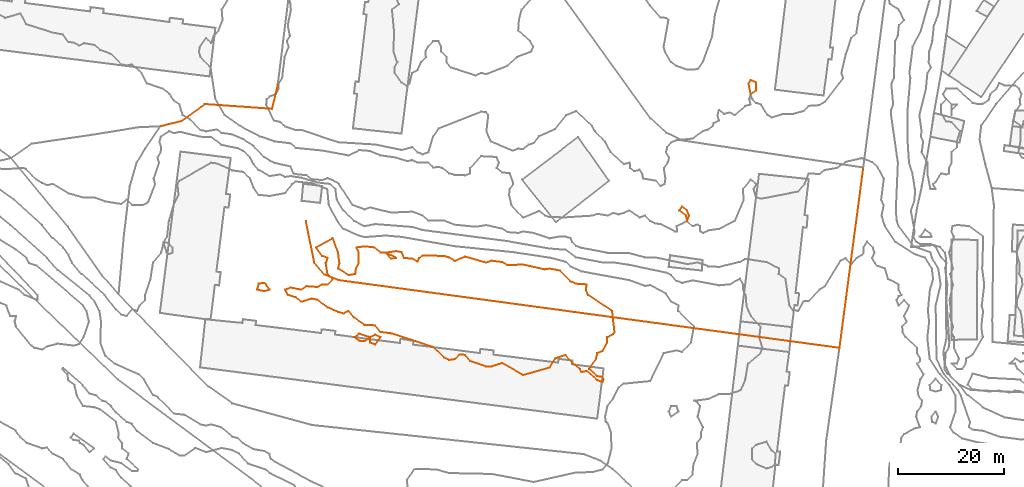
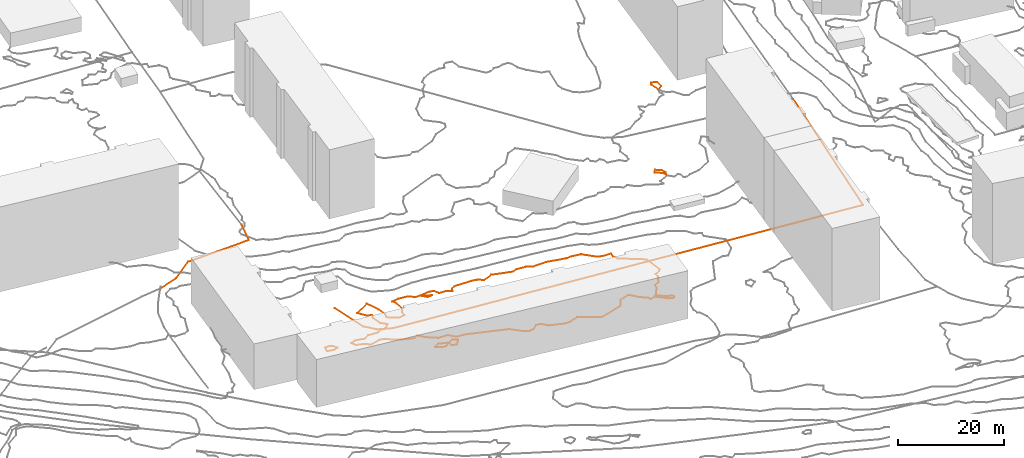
# Not in any storey, part 242 of 419: 9 proxies.
"""IFC2X3 model written with IfcOpenShell, lengths in metres."""

from ifc_helpers import new_model, entity, si_unit, frame, origin_with_axes, place, context, subcontext, project, element, save


model = new_model("IFC2X3")

# Units and contexts
model_context = context("Model", 3, precision=1e-05, world=origin_with_axes())
body_context = subcontext(model_context, "Body", "Model", "MODEL_VIEW")
ifc_project = project(units=[si_unit("AREAUNIT", "SQUARE_METRE"), si_unit("LENGTHUNIT", "METRE")], contexts=[model_context])

# Proxies
proxy_1_placement = place(None, frame((440.8920204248, 614.8976909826, 28.7), z_axis=(0.0, 0.0, 1.0), x_axis=(1.0, 0.0, 0.0)))
element("IfcBuildingElementProxy", 1, at=proxy_1_placement, Name="Route 119", ObjectType="NOTDEFINED", context=body_context, shape_type="GeometricCurveSet", body=[
    entity("IfcGeometricCurveSet", [entity("IfcPolyline", [entity("IfcCartesianPoint", [4.5, 34.0999999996, 2.1]), entity("IfcCartesianPoint", [0.0, 0.0, 0.0])])]),
])
proxy_2_placement = place(None, frame((312.4920204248, 656.7976909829, 29.1), z_axis=(0.0, 0.0, 1.0), x_axis=(1.0, 0.0, 0.0)))
element("IfcBuildingElementProxy", 2, at=proxy_2_placement, Name="Route 147", ObjectType="NOTDEFINED", context=body_context, shape_type="GeometricCurveSet", body=[
    entity("IfcGeometricCurveSet", [entity("IfcPolyline", [entity("IfcCartesianPoint", [0.0, 0.0, 0.0]), entity("IfcCartesianPoint", [4.0, 1.0, 0.3]), entity("IfcCartesianPoint", [8.4, 4.1999999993, 0.6]), entity("IfcCartesianPoint", [21.1, 3.2999999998, 1.7]), entity("IfcCartesianPoint", [22.2, 7.8999999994, 2.1])])]),
])
proxy_3_placement = place(None, frame((339.9920204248, 638.8976909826, 25.8), z_axis=(0.0, 0.0, 1.0), x_axis=(1.0, 0.0, 0.0)))
element("IfcBuildingElementProxy", 3, at=proxy_3_placement, Name="Route 199", ObjectType="NOTDEFINED", context=body_context, shape_type="GeometricCurveSet", body=[
    entity("IfcGeometricCurveSet", [entity("IfcPolyline", [entity("IfcCartesianPoint", [100.9, -24.0, 2.9]), entity("IfcCartesianPoint", [6.2, -11.2000000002, 0.0]), entity("IfcCartesianPoint", [3.5, -10.0999999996, 0.0]), entity("IfcCartesianPoint", [1.6, -7.9000000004, 0.0]), entity("IfcCartesianPoint", [0.0, 0.0, 0.0])])]),
])
proxy_4_placement = place(None, frame((423.7110702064, 664.8976909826, 32.0), z_axis=(0.0, 0.0, 1.0), x_axis=(1.0, 0.0, 0.0)))
element("IfcBuildingElementProxy", 4, at=proxy_4_placement, Name="Contour 32.0 m", ObjectType="NOTDEFINED", context=body_context, shape_type="GeometricCurveSet", body=[
    entity("IfcGeometricCurveSet", [entity("IfcPolyline", [entity("IfcCartesianPoint", [1.3809502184, -1.333333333, 0.0]), entity("IfcCartesianPoint", [1.3809502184, 0.2000000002, 0.0]), entity("IfcCartesianPoint", [0.3809502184, 0.6153880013, 0.0]), entity("IfcCartesianPoint", [0.0, 0.0, 0.0]), entity("IfcCartesianPoint", [0.3809502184, -1.9999666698, 0.0]), entity("IfcCartesianPoint", [1.3809502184, -1.333333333, 0.0])])]),
])
proxy_5_placement = place(None, frame((410.5920304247, 640.8976909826, 31.0), z_axis=(0.0, 0.0, 1.0), x_axis=(1.0, 0.0, 0.0)))
element("IfcBuildingElementProxy", 5, at=proxy_5_placement, Name="Contour 31.0 m", ObjectType="NOTDEFINED", context=body_context, shape_type="GeometricCurveSet", body=[
    entity("IfcGeometricCurveSet", [entity("IfcPolyline", [entity("IfcCartesianPoint", [1.49999, -1.9999000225, 0.0]), entity("IfcCartesianPoint", [1.8333233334, -1.0, 0.0]), entity("IfcCartesianPoint", [1.4999700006, 0.0, 0.0]), entity("IfcCartesianPoint", [0.49999, 0.7142779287, 0.0]), entity("IfcCartesianPoint", [0.0, 0.0, 0.0]), entity("IfcCartesianPoint", [1.2999900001, -1.0, 0.0]), entity("IfcCartesianPoint", [1.49999, -1.9999000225, 0.0])])]),
])
proxy_6_placement = place(None, frame((330.7920147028, 625.8976909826, 27.0), z_axis=(0.0, 0.0, 1.0), x_axis=(1.0, 0.0, 0.0)))
element("IfcBuildingElementProxy", 6, at=proxy_6_placement, Name="Contour 27.0 m", ObjectType="NOTDEFINED", context=body_context, shape_type="GeometricCurveSet", body=[
    entity("IfcGeometricCurveSet", [entity("IfcPolyline", [entity("IfcCartesianPoint", [1.300005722, -0.2857181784, 0.0]), entity("IfcCartesianPoint", [2.2999807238, 0.0, 0.0]), entity("IfcCartesianPoint", [1.700005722, 1.0, 0.0]), entity("IfcCartesianPoint", [1.300005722, 1.2857220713, 0.0]), entity("IfcCartesianPoint", [0.300005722, 1.1428610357, 0.0]), entity("IfcCartesianPoint", [0.0, 0.0, 0.0]), entity("IfcCartesianPoint", [1.300005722, -0.2857181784, 0.0])])]),
])
proxy_7_placement = place(None, frame((349.0920329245, 616.8976909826, 27.0), z_axis=(0.0, 0.0, 1.0), x_axis=(1.0, 0.0, 0.0)))
element("IfcBuildingElementProxy", 7, at=proxy_7_placement, Name="Contour 27.0 m", ObjectType="NOTDEFINED", context=body_context, shape_type="GeometricCurveSet", body=[
    entity("IfcGeometricCurveSet", [entity("IfcPolyline", [entity("IfcCartesianPoint", [1.9999875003, -0.7499940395, 0.0]), entity("IfcCartesianPoint", [2.999970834, 0.0, 0.0]), entity("IfcCartesianPoint", [0.9999875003, 0.6666613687, 0.0]), entity("IfcCartesianPoint", [0.0, 0.0, 0.0]), entity("IfcCartesianPoint", [0.9999875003, -0.6666613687, 0.0]), entity("IfcCartesianPoint", [1.9999875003, -0.7499940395, 0.0])])]),
])
proxy_8_placement = place(None, frame((352.0920704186, 615.8976909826, 27.0), z_axis=(0.0, 0.0, 1.0), x_axis=(1.0, 0.0, 0.0)))
element("IfcBuildingElementProxy", 8, at=proxy_8_placement, Name="Contour 27.0 m", ObjectType="NOTDEFINED", context=body_context, shape_type="GeometricCurveSet", body=[
    entity("IfcGeometricCurveSet", [entity("IfcPolyline", [entity("IfcCartesianPoint", [0.9999500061, -0.333333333, 0.0]), entity("IfcCartesianPoint", [1.9998500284, 1.0, 0.0]), entity("IfcCartesianPoint", [0.9999500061, 1.4999500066, 0.0]), entity("IfcCartesianPoint", [4.99838e-05, 1.0, 0.0]), entity("IfcCartesianPoint", [0.0, 0.0, 0.0]), entity("IfcCartesianPoint", [0.9999500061, -0.333333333, 0.0])])]),
])
proxy_9_placement = place(None, frame((336.0920704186, 625.8976909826, 27.0), z_axis=(0.0, 0.0, 1.0), x_axis=(1.0, 0.0, 0.0)))
element("IfcBuildingElementProxy", 9, at=proxy_9_placement, Name="Contour 27.0 m", ObjectType="NOTDEFINED", context=body_context, shape_type="GeometricCurveSet", body=[
    entity("IfcGeometricCurveSet", [entity("IfcPolyline", [entity("IfcCartesianPoint", [59.9999500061, -17.4545438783, 0.0]), entity("IfcCartesianPoint", [60.2272199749, -17.0, 0.0]), entity("IfcCartesianPoint", [59.9999500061, -16.5454561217, 0.0]), entity("IfcCartesianPoint", [58.9999500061, -16.333333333, 0.0]), entity("IfcCartesianPoint", [57.4444038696, -15.0, 0.0]), entity("IfcCartesianPoint", [58.7999500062, -13.0, 0.0]), entity("IfcCartesianPoint", [58.9999166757, -12.0, 0.0]), entity("IfcCartesianPoint", [59.9999500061, -11.5999999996, 0.0]), entity("IfcCartesianPoint", [60.8332780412, -10.0, 0.0]), entity("IfcCartesianPoint", [60.8332780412, -9.0, 0.0]), entity("IfcCartesianPoint", [61.9999500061, -8.4285714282, 0.0]), entity("IfcCartesianPoint", [62.2726820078, -8.0, 0.0]), entity("IfcCartesianPoint", [61.7999500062, -4.0, 0.0]), entity("IfcCartesianPoint", [57.2499500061, -1.0, 0.0]), entity("IfcCartesianPoint", [56.8570889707, 0.0, 0.0]), entity("IfcCartesianPoint", [56.9999357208, 1.0, 0.0]), entity("IfcCartesianPoint", [54.9999500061, 1.1176496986, 0.0]), entity("IfcCartesianPoint", [53.9999500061, 1.5714305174, 0.0]), entity("IfcCartesianPoint", [51.9999500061, 3.5952379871, 0.0]), entity("IfcCartesianPoint", [49.9999500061, 3.9791661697, 0.0]), entity("IfcCartesianPoint", [48.9999500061, 3.8333342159, 0.0]), entity("IfcCartesianPoint", [44.9999500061, 4.745098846, 0.0]), entity("IfcCartesianPoint", [41.9999500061, 4.6363610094, 0.0]), entity("IfcCartesianPoint", [40.9999500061, 5.2203382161, 0.0]), entity("IfcCartesianPoint", [38.9999500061, 5.4769225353, 0.0]), entity("IfcCartesianPoint", [37.9999500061, 5.1111134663, 0.0]), entity("IfcCartesianPoint", [33.9999500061, 6.2419352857, 0.0]), entity("IfcCartesianPoint", [31.9999500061, 5.4374985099, 0.0]), entity("IfcCartesianPoint", [30.9999500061, 6.113634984, 0.0]), entity("IfcCartesianPoint", [29.9999500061, 6.3773594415, 0.0]), entity("IfcCartesianPoint", [25.9999500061, 6.4615412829, 0.0]), entity("IfcCartesianPoint", [25.2940630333, 6.0, 0.0]), entity("IfcCartesianPoint", [24.9999500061, 5.2857220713, 0.0]), entity("IfcCartesianPoint", [23.9999500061, 5.8571389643, 0.0]), entity("IfcCartesianPoint", [22.4999000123, 6.0, 0.0]), entity("IfcCartesianPoint", [21.9999500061, 7.0769247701, 0.0]), entity("IfcCartesianPoint", [20.9999500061, 7.2857133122, 0.0]), entity("IfcCartesianPoint", [19.0000499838, 7.0, 0.0]), entity("IfcCartesianPoint", [21.0000499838, 6.0, 0.0]), entity("IfcCartesianPoint", [19.9999500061, 5.8888865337, 0.0]), entity("IfcCartesianPoint", [18.9998500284, 7.0, 0.0]), entity("IfcCartesianPoint", [17.9999500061, 7.0454557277, 0.0]), entity("IfcCartesianPoint", [16.7777230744, 8.0, 0.0]), entity("IfcCartesianPoint", [14.9999500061, 8.1718756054, 0.0]), entity("IfcCartesianPoint", [13.4999666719, 8.0, 0.0]), entity("IfcCartesianPoint", [13.9166153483, 7.0, 0.0]), entity("IfcCartesianPoint", [13.9166153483, 5.0, 0.0]), entity("IfcCartesianPoint", [13.3749589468, 4.0, 0.0]), entity("IfcCartesianPoint", [13.2499500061, 3.0, 0.0]), entity("IfcCartesianPoint", [11.9999500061, 2.75, 0.0]), entity("IfcCartesianPoint", [9.9999250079, 4.0, 0.0]), entity("IfcCartesianPoint", [10.2499559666, 5.0, 0.0]), entity("IfcCartesianPoint", [9.9999500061, 6.9999000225, 0.0]), entity("IfcCartesianPoint", [8.9999500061, 9.75, 0.0]), entity("IfcCartesianPoint", [5.8570889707, 8.0, 0.0]), entity("IfcCartesianPoint", [6.9999500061, 6.4000000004, 0.0]), entity("IfcCartesianPoint", [8.0, 6.0, 0.0]), entity("IfcCartesianPoint", [7.6666166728, 5.0, 0.0]), entity("IfcCartesianPoint", [8.0, 3.0, 0.0]), entity("IfcCartesianPoint", [8.9999500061, 1.9999000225, 0.0]), entity("IfcCartesianPoint", [7.9999500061, 0.9999000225, 0.0]), entity("IfcCartesianPoint", [6.9999500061, 0.9999800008, 0.0]), entity("IfcCartesianPoint", [5.9999500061, 0.4999750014, 0.0]), entity("IfcCartesianPoint", [3.9999500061, 0.666666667, 0.0]), entity("IfcCartesianPoint", [2.9999500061, -3.33302e-05, 0.0]), entity("IfcCartesianPoint", [0.9999500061, 0.4000000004, 0.0]), entity("IfcCartesianPoint", [0.0, 0.0, 0.0]), entity("IfcCartesianPoint", [0.5, -1.0, 0.0]), entity("IfcCartesianPoint", [1.9999500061, -1.4285714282, 0.0]), entity("IfcCartesianPoint", [2.9999500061, -2.2857220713, 0.0]), entity("IfcCartesianPoint", [4.9999500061, -1.6999942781, 0.0]), entity("IfcCartesianPoint", [5.9999500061, -1.899998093, 0.0]), entity("IfcCartesianPoint", [7.9999500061, -3.333333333, 0.0]), entity("IfcCartesianPoint", [9.9999500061, -4.2000000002, 0.0]), entity("IfcCartesianPoint", [10.9999500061, -4.4999750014, 0.0]), entity("IfcCartesianPoint", [11.9999500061, -3.9999666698, 0.0]), entity("IfcCartesianPoint", [12.9999500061, -5.25, 0.0]), entity("IfcCartesianPoint", [14.9999500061, -6.666666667, 0.0]), entity("IfcCartesianPoint", [16.9999500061, -6.75, 0.0]), entity("IfcCartesianPoint", [17.9999500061, -7.9999500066, 0.0]), entity("IfcCartesianPoint", [19.9999500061, -8.25, 0.0]), entity("IfcCartesianPoint", [27.9999500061, -10.8571389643, 0.0]), entity("IfcCartesianPoint", [29.9999500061, -12.7999999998, 0.0]), entity("IfcCartesianPoint", [30.9999500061, -13.2857220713, 0.0]), entity("IfcCartesianPoint", [31.9999500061, -13.1428610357, 0.0]), entity("IfcCartesianPoint", [32.9999500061, -12.2500059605, 0.0]), entity("IfcCartesianPoint", [33.9999500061, -12.333333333, 0.0]), entity("IfcCartesianPoint", [34.9999500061, -13.499983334, 0.0]), entity("IfcCartesianPoint", [37.9999500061, -14.4999875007, 0.0]), entity("IfcCartesianPoint", [38.9999500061, -14.4999916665, 0.0]), entity("IfcCartesianPoint", [40.9999500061, -13.8749970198, 0.0]), entity("IfcCartesianPoint", [44.9999500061, -16.1428610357, 0.0]), entity("IfcCartesianPoint", [49.9999500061, -14.7142779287, 0.0]), entity("IfcCartesianPoint", [50.9999500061, -12.9999666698, 0.0]), entity("IfcCartesianPoint", [52.9999500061, -12.3333290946, 0.0]), entity("IfcCartesianPoint", [54.437448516, -14.0, 0.0]), entity("IfcCartesianPoint", [55.7332799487, -15.0, 0.0]), entity("IfcCartesianPoint", [55.9999500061, -15.5714285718, 0.0]), entity("IfcCartesianPoint", [56.9999500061, -15.3636426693, 0.0]), entity("IfcCartesianPoint", [58.9999500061, -17.1111134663, 0.0]), entity("IfcCartesianPoint", [59.9999500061, -17.4545438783, 0.0])])]),
])

save(model, "model.ifc")
